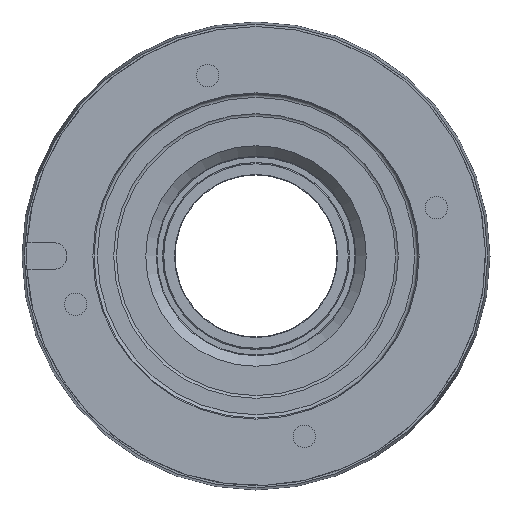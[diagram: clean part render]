
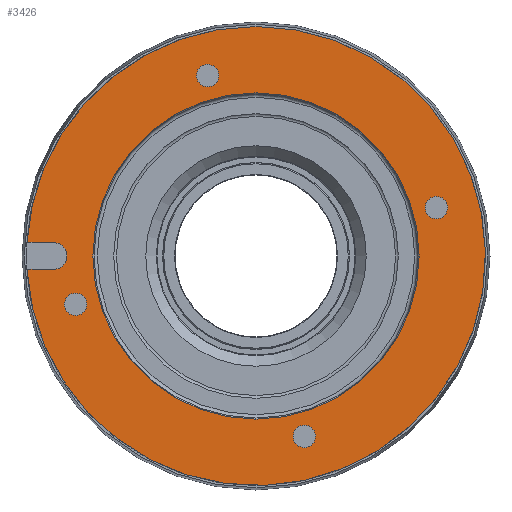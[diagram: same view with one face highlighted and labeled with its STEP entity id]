
A CAD part, left-side view. The second image highlights one B-rep face of the part: STEP entity #3426.
In plain terms, the highlighted planar face has unit normal (-1, 0, 0).
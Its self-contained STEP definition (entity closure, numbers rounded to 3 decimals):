
#61 = AXIS2_PLACEMENT_3D ( 'NONE', #3724, #2596, #4408 ) ;
#158 = ORIENTED_EDGE ( 'NONE', *, *, #3963, .F. ) ;
#351 = CARTESIAN_POINT ( 'NONE',  ( 0., -10.741, -40.086 ) ) ;
#382 = ORIENTED_EDGE ( 'NONE', *, *, #4615, .F. ) ;
#406 = EDGE_LOOP ( 'NONE', ( #158 ) ) ;
#441 = EDGE_CURVE ( 'NONE', #737, #3700, #2500, .T. ) ;
#522 = CARTESIAN_POINT ( 'NONE',  ( 0., -36.25, 0. ) ) ;
#595 = EDGE_LOOP ( 'NONE', ( #382 ) ) ;
#614 = VERTEX_POINT ( 'NONE', #849 ) ;
#669 = CARTESIAN_POINT ( 'NONE',  ( 0., 50.912, 3. ) ) ;
#737 = VERTEX_POINT ( 'NONE', #3932 ) ;
#762 = AXIS2_PLACEMENT_3D ( 'NONE', #3498, #2696, #2318 ) ;
#849 = CARTESIAN_POINT ( 'NONE',  ( 0., 45., -3. ) ) ;
#880 = CARTESIAN_POINT ( 'NONE',  ( 0., 10.741, 40.086 ) ) ;
#986 = VERTEX_POINT ( 'NONE', #4703 ) ;
#994 = AXIS2_PLACEMENT_3D ( 'NONE', #3279, #2530, #1067 ) ;
#1012 = EDGE_CURVE ( 'NONE', #614, #4357, #4031, .T. ) ;
#1067 = DIRECTION ( 'NONE',  ( 0., 0., 1. ) ) ;
#1076 = DIRECTION ( 'NONE',  ( 0., 1., 0. ) ) ;
#1088 = CARTESIAN_POINT ( 'NONE',  ( 0., 8.241, 40.086 ) ) ;
#1161 = EDGE_LOOP ( 'NONE', ( #2489 ) ) ;
#1296 = VECTOR ( 'NONE', #2747, 1000. ) ;
#1492 = CARTESIAN_POINT ( 'NONE',  ( 0., 45., 3. ) ) ;
#1572 = VERTEX_POINT ( 'NONE', #3288 ) ;
#1650 = FACE_BOUND ( 'NONE', #406, .T. ) ;
#1667 = DIRECTION ( 'NONE',  ( 0., -1., 0. ) ) ;
#1687 = DIRECTION ( 'NONE',  ( -1., 0., 0. ) ) ;
#1690 = VERTEX_POINT ( 'NONE', #2858 ) ;
#1700 = AXIS2_PLACEMENT_3D ( 'NONE', #3160, #3885, #2013 ) ;
#1728 = ORIENTED_EDGE ( 'NONE', *, *, #441, .T. ) ;
#1771 = CARTESIAN_POINT ( 'NONE',  ( 0., 0., 36.25 ) ) ;
#1834 = AXIS2_PLACEMENT_3D ( 'NONE', #351, #2916, #1076 ) ;
#1865 = CIRCLE ( 'NONE', #61, 2.5 ) ;
#1919 = DIRECTION ( 'NONE',  ( 0., -1., 0. ) ) ;
#2013 = DIRECTION ( 'NONE',  ( 0., 0., 1. ) ) ;
#2074 = EDGE_CURVE ( 'NONE', #4357, #3700, #3969, .T. ) ;
#2104 = VERTEX_POINT ( 'NONE', #1771 ) ;
#2224 = FACE_BOUND ( 'NONE', #1161, .T. ) ;
#2305 = DIRECTION ( 'NONE',  ( 0., 0., 1. ) ) ;
#2318 = DIRECTION ( 'NONE',  ( 0., 0., 1. ) ) ;
#2416 = DIRECTION ( 'NONE',  ( 0., 0., 1. ) ) ;
#2427 = EDGE_LOOP ( 'NONE', ( #3906, #1728, #3276, #4078 ) ) ;
#2430 = EDGE_CURVE ( 'NONE', #986, #986, #3555, .T. ) ;
#2489 = ORIENTED_EDGE ( 'NONE', *, *, #2430, .F. ) ;
#2500 = CIRCLE ( 'NONE', #994, 51. ) ;
#2521 = VERTEX_POINT ( 'NONE', #1088 ) ;
#2530 = DIRECTION ( 'NONE',  ( -1., 0., 0. ) ) ;
#2596 = DIRECTION ( 'NONE',  ( -1., 0., 0. ) ) ;
#2618 = FACE_OUTER_BOUND ( 'NONE', #2427, .T. ) ;
#2691 = CARTESIAN_POINT ( 'NONE',  ( 0., 45., -3. ) ) ;
#2696 = DIRECTION ( 'NONE',  ( -1., 0., 0. ) ) ;
#2734 = CARTESIAN_POINT ( 'NONE',  ( 0., 45., 3. ) ) ;
#2747 = DIRECTION ( 'NONE',  ( 0., 1., 0. ) ) ;
#2858 = CARTESIAN_POINT ( 'NONE',  ( 0., -40.086, 8.241 ) ) ;
#2916 = DIRECTION ( 'NONE',  ( -1., 0., 0. ) ) ;
#2959 = CIRCLE ( 'NONE', #1700, 2.5 ) ;
#2995 = ORIENTED_EDGE ( 'NONE', *, *, #3556, .F. ) ;
#3160 = CARTESIAN_POINT ( 'NONE',  ( 0., 40.086, -10.741 ) ) ;
#3211 = EDGE_LOOP ( 'NONE', ( #3459 ) ) ;
#3246 = CIRCLE ( 'NONE', #762, 36.25 ) ;
#3252 = FACE_BOUND ( 'NONE', #595, .T. ) ;
#3276 = ORIENTED_EDGE ( 'NONE', *, *, #2074, .F. ) ;
#3279 = CARTESIAN_POINT ( 'NONE',  ( 0., 0., 0. ) ) ;
#3288 = CARTESIAN_POINT ( 'NONE',  ( 0., 40.086, -8.241 ) ) ;
#3301 = EDGE_CURVE ( 'NONE', #1690, #1690, #1865, .T. ) ;
#3357 = AXIS2_PLACEMENT_3D ( 'NONE', #522, #3778, #2305 ) ;
#3365 = AXIS2_PLACEMENT_3D ( 'NONE', #880, #1687, #1667 ) ;
#3416 = VECTOR ( 'NONE', #1919, 1000. ) ;
#3426 = ADVANCED_FACE ( 'NONE', ( #3252, #3713, #2224, #3604, #2618, #1650 ), #4542, .T. ) ;
#3459 = ORIENTED_EDGE ( 'NONE', *, *, #3301, .F. ) ;
#3498 = CARTESIAN_POINT ( 'NONE',  ( 0., 0., 0. ) ) ;
#3555 = CIRCLE ( 'NONE', #1834, 2.5 ) ;
#3556 = EDGE_CURVE ( 'NONE', #1572, #1572, #2959, .T. ) ;
#3604 = FACE_BOUND ( 'NONE', #4191, .T. ) ;
#3700 = VERTEX_POINT ( 'NONE', #669 ) ;
#3713 = FACE_BOUND ( 'NONE', #3211, .T. ) ;
#3724 = CARTESIAN_POINT ( 'NONE',  ( 0., -40.086, 10.741 ) ) ;
#3778 = DIRECTION ( 'NONE',  ( -1., 0., 0. ) ) ;
#3862 = DIRECTION ( 'NONE',  ( -1., 0., 0. ) ) ;
#3885 = DIRECTION ( 'NONE',  ( -1., 0., 0. ) ) ;
#3906 = ORIENTED_EDGE ( 'NONE', *, *, #4575, .F. ) ;
#3932 = CARTESIAN_POINT ( 'NONE',  ( 0., 50.912, -3. ) ) ;
#3963 = EDGE_CURVE ( 'NONE', #2104, #2104, #3246, .T. ) ;
#3969 = LINE ( 'NONE', #2734, #1296 ) ;
#4031 = CIRCLE ( 'NONE', #4312, 3. ) ;
#4078 = ORIENTED_EDGE ( 'NONE', *, *, #1012, .F. ) ;
#4084 = CIRCLE ( 'NONE', #3365, 2.5 ) ;
#4136 = LINE ( 'NONE', #2691, #3416 ) ;
#4191 = EDGE_LOOP ( 'NONE', ( #2995 ) ) ;
#4312 = AXIS2_PLACEMENT_3D ( 'NONE', #4592, #3862, #2416 ) ;
#4357 = VERTEX_POINT ( 'NONE', #1492 ) ;
#4408 = DIRECTION ( 'NONE',  ( 0., 0., -1. ) ) ;
#4542 = PLANE ( 'NONE',  #3357 ) ;
#4575 = EDGE_CURVE ( 'NONE', #737, #614, #4136, .T. ) ;
#4592 = CARTESIAN_POINT ( 'NONE',  ( 0., 45., 0. ) ) ;
#4615 = EDGE_CURVE ( 'NONE', #2521, #2521, #4084, .T. ) ;
#4703 = CARTESIAN_POINT ( 'NONE',  ( 0., -8.241, -40.086 ) ) ;
